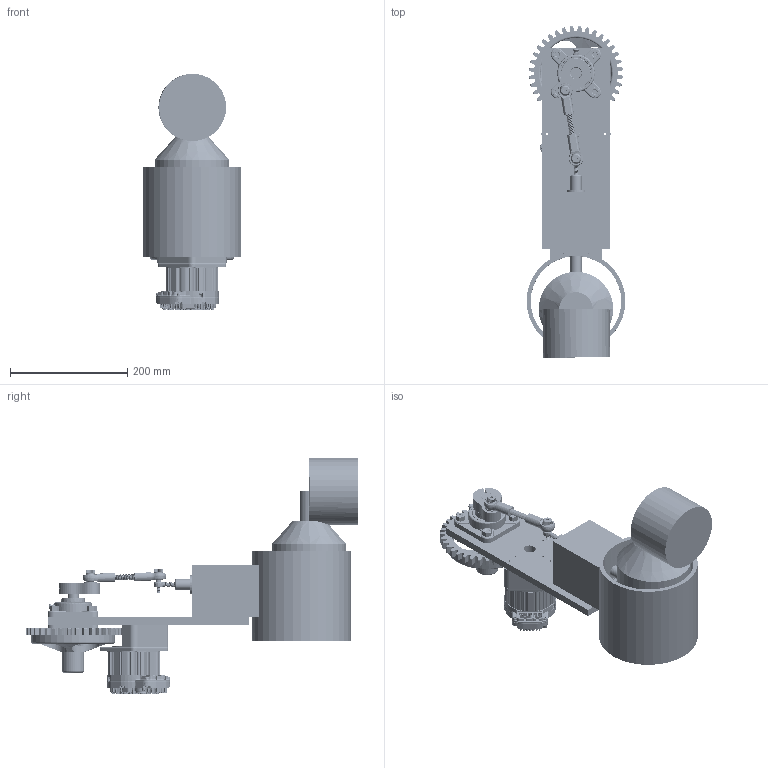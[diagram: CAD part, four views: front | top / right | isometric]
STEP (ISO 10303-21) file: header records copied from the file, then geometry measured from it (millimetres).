
FILE_DESCRIPTION (( 'STEP AP214' ), '1' );
FILE_NAME ('Prototype Automated BVM Ventilator.STEP', '2020-03-20T21:27:37', ( '' ), ( '' ), 'SwSTEP 2.0', 'SolidWorks 2013', '' );
FILE_SCHEMA (( 'AUTOMOTIVE_DESIGN' ));
Length unit declared in the file: millimetre
Products named in the file (26): Respirator Bag; 91251A580_91251A580; Respirator Bag Holder; 6377K210_ULTRA-LOW-FRICTION DRY-RUNNING SLEEVE BEARING; Respirator Bag Interface; Respirator Core; CPM-_ _ _ _ - 3411_-LS; Crank Wall Assembly; 95462A031_GRADE 5 STEEL HEX NUT; 97345A244_316 STAINLESS STEEL SHOULDER SCREW; Respirator motor mount; Covid Gear Small; Crank-Adjustable; 91251A334_BLACK-OXIDE ALLOY STEEL SOCKET HEAD SCREW; 6494K320_MOUNTED BALL BRNG W NCKL-PLTD IRON HOUSING; Covid Gear Big; 2672n28; 6649K108_HARDENED PRECISION STEEL SHAFT; half in plywood wall; 91860A030_TYPE 17-7 PH STAINLESS STEEL FLAT WASHER; 3798K220_FULLY THREADED C1035 STEEL ROD END; Prototype Automated BVM Ventilator; 95412A327_18-8 STAINLESS STEEL THREADED ROD_95412A327; 2458K34 .375-24 Heim Joint Assembly; Ball of 2458K34; Joint of 2458K34_2458K341
Assembly tree (35 placements, depth 3):
  Prototype Automated BVM Ventilator
    Crank Wall Assembly
      half in plywood wall
      2672n28
      6494K320_MOUNTED BALL BRNG W NCKL-PLTD IRON HOUSING  x2
      Crank-Adjustable
      97345A244_316 STAINLESS STEEL SHOULDER SCREW
    Respirator Core
    Respirator Bag Interface
    6377K210_ULTRA-LOW-FRICTION DRY-RUNNING SLEEVE BEARING  x2
    Respirator Bag Holder
    91251A580_91251A580
    Respirator Bag
    2458K34 .375-24 Heim Joint Assembly  x2
      Joint of 2458K34_2458K341
      Ball of 2458K34
    95412A327_18-8 STAINLESS STEEL THREADED ROD_95412A327
    97345A244_316 STAINLESS STEEL SHOULDER SCREW
    3798K220_FULLY THREADED C1035 STEEL ROD END
    91860A030_TYPE 17-7 PH STAINLESS STEEL FLAT WASHER
    6649K108_HARDENED PRECISION STEEL SHAFT
    Covid Gear Big
    91251A334_BLACK-OXIDE ALLOY STEEL SOCKET HEAD SCREW  x4
    Covid Gear Small
    Respirator motor mount
    95462A031_GRADE 5 STEEL HEX NUT  x4
    CPM-_ _ _ _ - 3411_-LS
Bounding box: 168.28 x 565.59 x 402.54 mm (x, y, z)
Volume: 6237510.8 mm3; surface area: 837955.4 mm2
Topology: 77 solids, 83 shells, 9795 faces, 25216 edges, 15602 vertices
Faces by surface type: cylinder 3435, plane 2336, bspline 1471, torus 1372, cone 1018, sphere 163
Entity records: 414573 total; most frequent: CARTESIAN_POINT 144471, ORIENTED_EDGE 43998, DIRECTION 38822, EDGE_CURVE 21999, AXIS2_PLACEMENT_3D 15733, VERTEX_POINT 13728, EDGE_LOOP 9011, ADVANCED_FACE 8622
